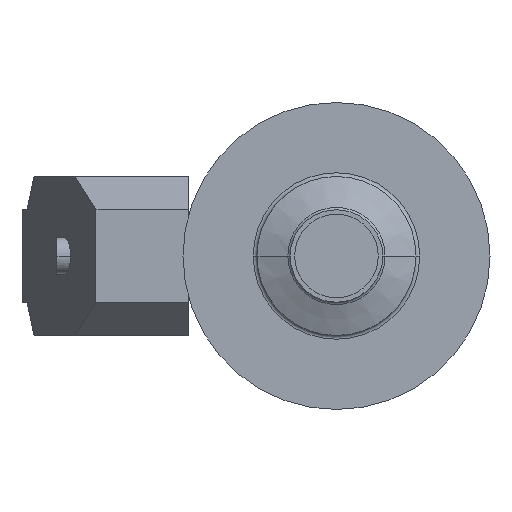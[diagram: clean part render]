
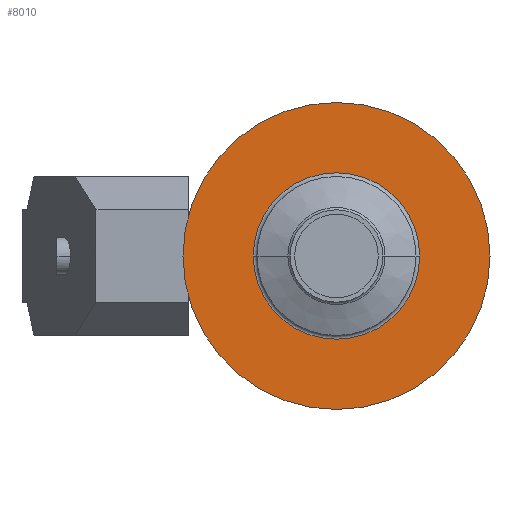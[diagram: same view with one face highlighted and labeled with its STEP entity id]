
A CAD part, left-side view. The second image highlights one B-rep face of the part: STEP entity #8010.
In plain terms, the highlighted planar face has unit normal (-1, 0, 0) as drawn and (1, 0, 0) by its records, which use the part's own axes.
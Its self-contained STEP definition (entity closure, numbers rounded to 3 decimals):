
#7530=CARTESIAN_POINT('',(-43.64,-37.689,0.));
#7540=VERTEX_POINT('',#7530);
#7620=CARTESIAN_POINT('',(-43.64,45.311,
0.));
#7630=VERTEX_POINT('',#7620);
#7660=CARTESIAN_POINT('',(-43.64,3.811,0.));
#7670=DIRECTION('',(-1.,0.,0.));
#7680=DIRECTION('',(0.,1.,0.));
#7690=AXIS2_PLACEMENT_3D('',#7660,#7670,#7680);
#7700=CIRCLE('',#7690,41.5);
#7710=EDGE_CURVE('',#7540,#7630,#7700,.T.);
#7760=CARTESIAN_POINT('',(-43.64,42.961,0.));
#7770=DIRECTION('',(-1.,0.,0.));
#7780=DIRECTION('',(0.,-1.,0.));
#7790=AXIS2_PLACEMENT_3D('',#7760,#7770,#7780);
#7800=PLANE('',#7790);
#7810=CARTESIAN_POINT('',(-43.64,3.811,0.));
#7820=DIRECTION('',(-1.,0.,0.));
#7830=DIRECTION('',(0.,1.,0.));
#7840=AXIS2_PLACEMENT_3D('',#7810,#7820,#7830);
#7850=CIRCLE('',#7840,22.5);
#7860=CARTESIAN_POINT('',(-43.64,26.311,0.));
#7870=VERTEX_POINT('',#7860);
#7880=CARTESIAN_POINT('',(-43.64,-18.689,0.));
#7890=VERTEX_POINT('',#7880);
#7900=EDGE_CURVE('',#7870,#7890,#7850,.T.);
#7910=ORIENTED_EDGE('',*,*,#7900,.T.);
#7920=EDGE_CURVE('',#7890,#7870,#7850,.T.);
#7930=ORIENTED_EDGE('',*,*,#7920,.T.);
#7940=EDGE_LOOP('',(#7930,#7910));
#7950=FACE_BOUND('',#7940,.T.);
#7960=EDGE_CURVE('',#7630,#7540,#7700,.T.);
#7970=ORIENTED_EDGE('',*,*,#7960,.F.);
#7980=ORIENTED_EDGE('',*,*,#7710,.F.);
#7990=EDGE_LOOP('',(#7980,#7970));
#8000=FACE_OUTER_BOUND('',#7990,.T.);
#8010=ADVANCED_FACE('',(#7950,#8000),#7800,.F.);
